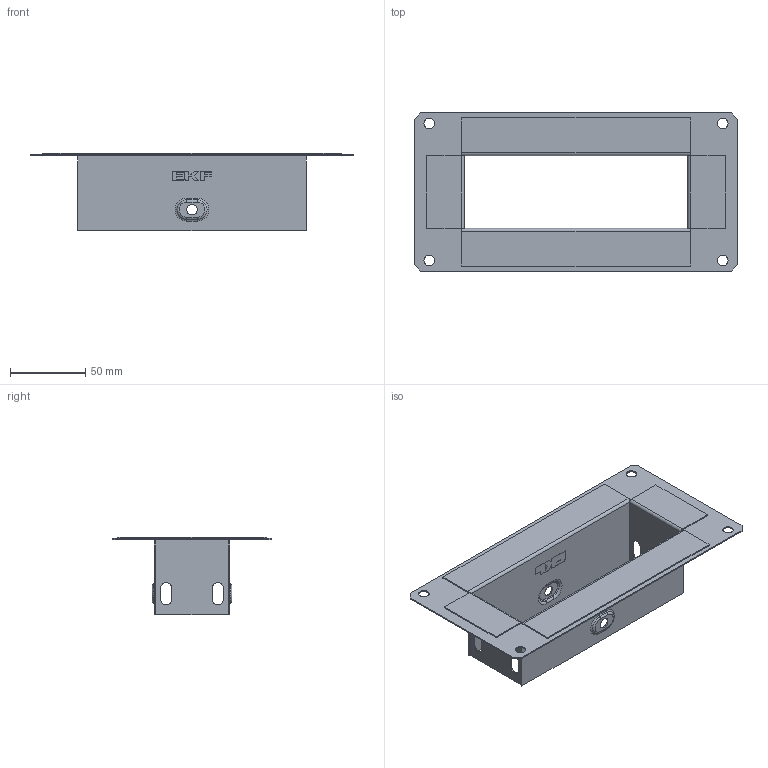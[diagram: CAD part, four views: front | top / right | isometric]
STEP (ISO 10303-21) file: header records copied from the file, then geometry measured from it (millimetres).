
FILE_DESCRIPTION (( 'STEP AP203' ), '1' );
FILE_NAME ('f50150_捘.STEP', '2020-01-23T12:28:09', ( '' ), ( '' ), 'SwSTEP 2.0', 'SolidWorks 2016', '' );
FILE_SCHEMA (( 'CONFIG_CONTROL_DESIGN' ));
Length unit declared in the file: millimetre
Products named in the file (9): f5050_3; f50150_1; f35150_2; f50150_捘
Assembly tree (5 placements, depth 2):
  f5050_3
  f5050_3
  f50150_捘
    f50150_1
    f35150_2  x2
    f5050_3  x2
  f50150_1
  f35150_2
Bounding box: 215 x 105 x 51.5 mm (x, y, z)
Volume: 35313.5 mm3; surface area: 90457 mm2
Topology: 5 solids, 5 shells, 306 faces, 792 edges, 512 vertices
Faces by surface type: plane 212, cylinder 60, bspline 18, torus 16
Entity records: 6262 total; most frequent: CARTESIAN_POINT 1358, ORIENTED_EDGE 852, DIRECTION 816, EDGE_CURVE 426, LINE 328, VECTOR 328, VERTEX_POINT 276, AXIS2_PLACEMENT_3D 244
